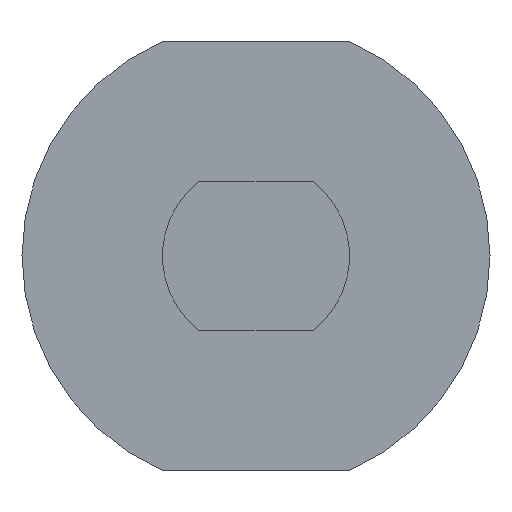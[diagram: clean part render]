
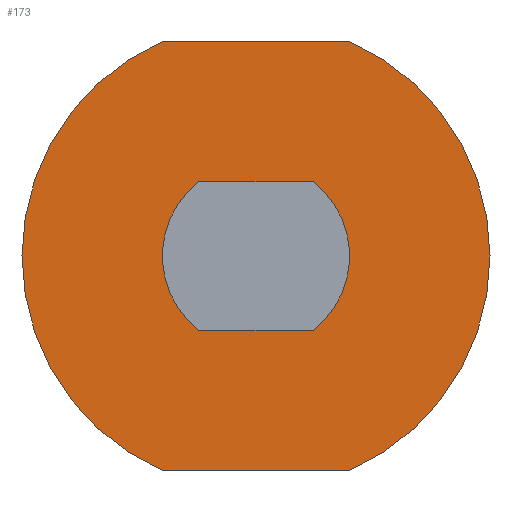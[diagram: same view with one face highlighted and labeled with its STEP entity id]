
A CAD part, front view. The second image highlights one B-rep face of the part: STEP entity #173.
In plain terms, the highlighted planar face has unit normal (0, -1, 0).
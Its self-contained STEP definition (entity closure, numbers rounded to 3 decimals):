
#5 = CIRCLE ( 'NONE', #360, 2.4 ) ;
#17 = AXIS2_PLACEMENT_3D ( 'NONE', #317, #307, #28 ) ;
#21 = DIRECTION ( 'NONE',  ( 0., 0., -1. ) ) ;
#22 = LINE ( 'NONE', #175, #259 ) ;
#24 = LINE ( 'NONE', #134, #64 ) ;
#28 = DIRECTION ( 'NONE',  ( 0., 0., -1. ) ) ;
#33 = CARTESIAN_POINT ( 'NONE',  ( 0., -0.8, 0. ) ) ;
#35 = ORIENTED_EDGE ( 'NONE', *, *, #291, .T. ) ;
#36 = FACE_BOUND ( 'NONE', #241, .T. ) ;
#37 = AXIS2_PLACEMENT_3D ( 'NONE', #33, #252, #420 ) ;
#45 = CARTESIAN_POINT ( 'NONE',  ( -2.398, -0.8, -5.5 ) ) ;
#52 = CARTESIAN_POINT ( 'NONE',  ( 0., -0.8, 0. ) ) ;
#59 = CARTESIAN_POINT ( 'NONE',  ( 2.398, -0.8, -5.5 ) ) ;
#64 = VECTOR ( 'NONE', #311, 1000. ) ;
#69 = ORIENTED_EDGE ( 'NONE', *, *, #108, .F. ) ;
#84 = CARTESIAN_POINT ( 'NONE',  ( 1.466, -0.8, -1.9 ) ) ;
#90 = DIRECTION ( 'NONE',  ( 0., -1., 0. ) ) ;
#96 = AXIS2_PLACEMENT_3D ( 'NONE', #308, #320, #103 ) ;
#103 = DIRECTION ( 'NONE',  ( 0., 0., -1. ) ) ;
#104 = CARTESIAN_POINT ( 'NONE',  ( -1.466, -0.8, 1.9 ) ) ;
#108 = EDGE_CURVE ( 'NONE', #180, #411, #160, .T. ) ;
#120 = EDGE_CURVE ( 'NONE', #411, #122, #430, .T. ) ;
#122 = VERTEX_POINT ( 'NONE', #272 ) ;
#130 = PLANE ( 'NONE',  #96 ) ;
#134 = CARTESIAN_POINT ( 'NONE',  ( -1.466, -0.8, 1.9 ) ) ;
#143 = EDGE_CURVE ( 'NONE', #409, #180, #203, .T. ) ;
#148 = CARTESIAN_POINT ( 'NONE',  ( 1.466, -0.8, 1.9 ) ) ;
#150 = ORIENTED_EDGE ( 'NONE', *, *, #220, .T. ) ;
#160 = CIRCLE ( 'NONE', #17, 6. ) ;
#167 = EDGE_CURVE ( 'NONE', #285, #226, #5, .T. ) ;
#171 = EDGE_CURVE ( 'NONE', #355, #217, #341, .T. ) ;
#173 = ADVANCED_FACE ( 'NONE', ( #299, #36 ), #130, .F. ) ;
#175 = CARTESIAN_POINT ( 'NONE',  ( -1.466, -0.8, -1.9 ) ) ;
#180 = VERTEX_POINT ( 'NONE', #424 ) ;
#191 = CIRCLE ( 'NONE', #37, 6. ) ;
#193 = EDGE_LOOP ( 'NONE', ( #204, #251, #69, #222 ) ) ;
#202 = ORIENTED_EDGE ( 'NONE', *, *, #167, .F. ) ;
#203 = LINE ( 'NONE', #45, #386 ) ;
#204 = ORIENTED_EDGE ( 'NONE', *, *, #359, .F. ) ;
#217 = VERTEX_POINT ( 'NONE', #245 ) ;
#220 = EDGE_CURVE ( 'NONE', #285, #217, #22, .T. ) ;
#222 = ORIENTED_EDGE ( 'NONE', *, *, #143, .F. ) ;
#226 = VERTEX_POINT ( 'NONE', #148 ) ;
#241 = EDGE_LOOP ( 'NONE', ( #202, #150, #242, #35 ) ) ;
#242 = ORIENTED_EDGE ( 'NONE', *, *, #171, .F. ) ;
#245 = CARTESIAN_POINT ( 'NONE',  ( -1.466, -0.8, -1.9 ) ) ;
#251 = ORIENTED_EDGE ( 'NONE', *, *, #120, .F. ) ;
#252 = DIRECTION ( 'NONE',  ( 0., 1., 0. ) ) ;
#254 = DIRECTION ( 'NONE',  ( 1., 0., 0. ) ) ;
#256 = CARTESIAN_POINT ( 'NONE',  ( 0., -0.8, 0. ) ) ;
#259 = VECTOR ( 'NONE', #416, 1000. ) ;
#269 = CARTESIAN_POINT ( 'NONE',  ( -2.398, -0.8, 5.5 ) ) ;
#272 = CARTESIAN_POINT ( 'NONE',  ( 2.398, -0.8, 5.5 ) ) ;
#275 = DIRECTION ( 'NONE',  ( 0., -1., 0. ) ) ;
#285 = VERTEX_POINT ( 'NONE', #84 ) ;
#291 = EDGE_CURVE ( 'NONE', #355, #226, #24, .T. ) ;
#299 = FACE_OUTER_BOUND ( 'NONE', #193, .T. ) ;
#301 = DIRECTION ( 'NONE',  ( 0., 0., -1. ) ) ;
#307 = DIRECTION ( 'NONE',  ( 0., 1., 0. ) ) ;
#308 = CARTESIAN_POINT ( 'NONE',  ( 0., -0.8, 0. ) ) ;
#309 = VECTOR ( 'NONE', #254, 1000. ) ;
#311 = DIRECTION ( 'NONE',  ( 1., 0., 0. ) ) ;
#317 = CARTESIAN_POINT ( 'NONE',  ( 0., -0.8, 0. ) ) ;
#320 = DIRECTION ( 'NONE',  ( 0., 1., 0. ) ) ;
#335 = CARTESIAN_POINT ( 'NONE',  ( -2.398, -0.8, 5.5 ) ) ;
#341 = CIRCLE ( 'NONE', #408, 2.4 ) ;
#355 = VERTEX_POINT ( 'NONE', #104 ) ;
#359 = EDGE_CURVE ( 'NONE', #122, #409, #191, .T. ) ;
#360 = AXIS2_PLACEMENT_3D ( 'NONE', #256, #275, #21 ) ;
#384 = DIRECTION ( 'NONE',  ( -1., 0., 0. ) ) ;
#386 = VECTOR ( 'NONE', #384, 1000. ) ;
#408 = AXIS2_PLACEMENT_3D ( 'NONE', #52, #90, #301 ) ;
#409 = VERTEX_POINT ( 'NONE', #59 ) ;
#411 = VERTEX_POINT ( 'NONE', #335 ) ;
#416 = DIRECTION ( 'NONE',  ( -1., 0., 0. ) ) ;
#420 = DIRECTION ( 'NONE',  ( 0., 0., -1. ) ) ;
#424 = CARTESIAN_POINT ( 'NONE',  ( -2.398, -0.8, -5.5 ) ) ;
#430 = LINE ( 'NONE', #269, #309 ) ;
